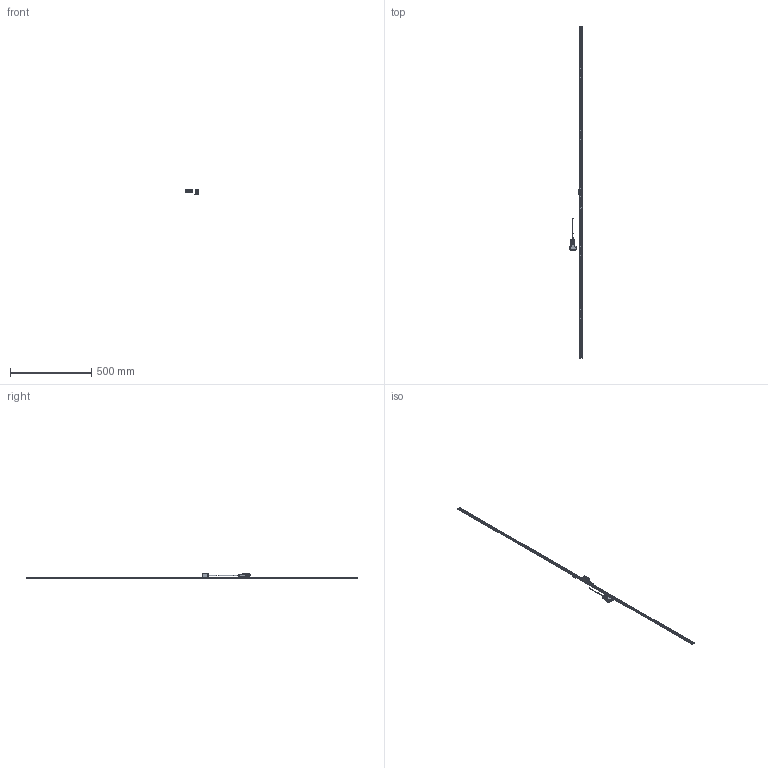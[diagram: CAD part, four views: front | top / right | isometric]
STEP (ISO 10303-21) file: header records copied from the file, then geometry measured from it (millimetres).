
FILE_DESCRIPTION(('Creo Elements/Direct Modeling STEP Export'),'2;1');
FILE_NAME('ST1300-2000F_G.stp','2022-08-16T11:09:38',(''),(''),'Creo Elements/Direct Modeling STEP processor for AP214 (Solid Model)','Creo Elements/Direct Modeling 18.1I 13-Aug-2016 (C) Parametric Technology GmbH','');
FILE_SCHEMA(('AUTOMOTIVE_DESIGN { 1 0 10303 214 1 1 1 1 }'));
Products named in the file (4): Connector; Scale_2000; Detector_Head; ST1300-2000F_G
Assembly tree (3 placements, depth 2):
  ST1300-2000F_G
    Detector_Head
    Scale_2000
    Connector
Bounding box: 83 x 2040 x 30.1 mm (x, y, z)
Volume: 188260.2 mm3; surface area: 111452 mm2
Topology: 2 solids, 6 shells, 3705 faces, 10142 edges, 6597 vertices
Faces by surface type: plane 1712, cylinder 1579, extrusion 274, cone 87, torus 26, bspline 23, revolution 4
Entity records: 123129 total; most frequent: CARTESIAN_POINT 28917, ORIENTED_EDGE 20268, DIRECTION 18707, EDGE_CURVE 10130, VERTEX_POINT 6597, AXIS2_PLACEMENT_3D 6239, VECTOR 6223, LINE 5991
